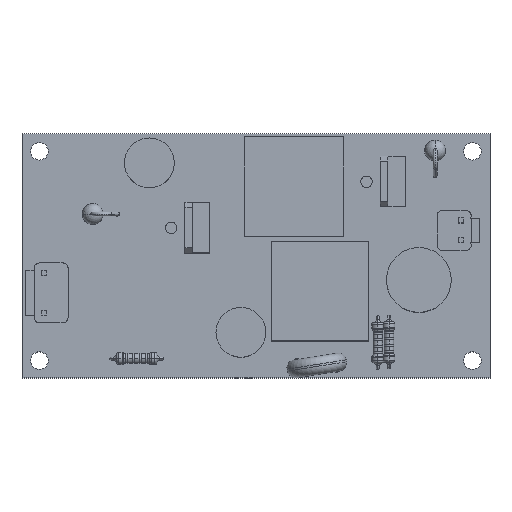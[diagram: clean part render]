
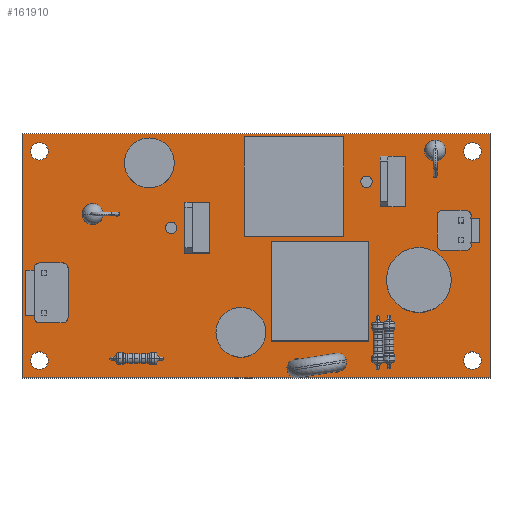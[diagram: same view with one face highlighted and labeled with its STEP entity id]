
A CAD part, top view. The second image highlights one B-rep face of the part: STEP entity #161910.
In plain terms, the highlighted planar face has unit normal (0, 0, 1).
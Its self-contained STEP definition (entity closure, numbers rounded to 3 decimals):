
#160920=CARTESIAN_POINT('',(101.661,200.228,-0.411));
#160930=DIRECTION('',(0.,0.,-1.));
#160940=DIRECTION('',(-1.,0.,0.));
#160950=AXIS2_PLACEMENT_3D('',#160920,#160930,#160940);
#160960=PLANE('',#160950);
#160970=CARTESIAN_POINT('',(144.83,179.7,-0.411));
#160980=DIRECTION('',(-1.,0.,0.));
#160990=VECTOR('',#160980,1.);
#161000=LINE('',#160970,#160990);
#161010=CARTESIAN_POINT('',(144.83,179.7,-0.411));
#161020=VERTEX_POINT('',#161010);
#161030=CARTESIAN_POINT('',(50.85,179.7,-0.411));
#161040=VERTEX_POINT('',#161030);
#161050=EDGE_CURVE('',#161020,#161040,#161000,.T.);
#161060=ORIENTED_EDGE('',*,*,#161050,.F.);
#161070=CARTESIAN_POINT('',(50.85,228.7,-0.411));
#161080=DIRECTION('',(0.,-1.,0.));
#161090=VECTOR('',#161080,1.);
#161100=LINE('',#161070,#161090);
#161110=CARTESIAN_POINT('',(50.85,228.7,-0.411));
#161120=VERTEX_POINT('',#161110);
#161130=EDGE_CURVE('',#161120,#161040,#161100,.T.);
#161140=ORIENTED_EDGE('',*,*,#161130,.T.);
#161150=CARTESIAN_POINT('',(144.83,228.7,-0.411));
#161160=DIRECTION('',(-1.,0.,0.));
#161170=VECTOR('',#161160,1.);
#161180=LINE('',#161150,#161170);
#161190=CARTESIAN_POINT('',(144.83,228.7,-0.411));
#161200=VERTEX_POINT('',#161190);
#161210=EDGE_CURVE('',#161200,#161120,#161180,.T.);
#161220=ORIENTED_EDGE('',*,*,#161210,.T.);
#161230=CARTESIAN_POINT('',(144.83,228.7,-0.411));
#161240=DIRECTION('',(0.,-1.,0.));
#161250=VECTOR('',#161240,1.);
#161260=LINE('',#161230,#161250);
#161270=EDGE_CURVE('',#161200,#161020,#161260,.T.);
#161280=ORIENTED_EDGE('',*,*,#161270,.F.);
#161290=EDGE_LOOP('',(#161280,#161220,#161140,#161060));
#161300=FACE_OUTER_BOUND('',#161290,.T.);
#161310=CARTESIAN_POINT('',(141.3,225.2,-0.411));
#161320=DIRECTION('',(0.,0.,-1.));
#161330=DIRECTION('',(1.,0.,0.));
#161340=AXIS2_PLACEMENT_3D('',#161310,#161320,#161330);
#161350=CIRCLE('',#161340,1.75);
#161360=CARTESIAN_POINT('',(143.05,225.2,-0.411));
#161370=VERTEX_POINT('',#161360);
#161380=CARTESIAN_POINT('',(139.55,225.2,-0.411));
#161390=VERTEX_POINT('',#161380);
#161400=EDGE_CURVE('',#161370,#161390,#161350,.T.);
#161410=ORIENTED_EDGE('',*,*,#161400,.T.);
#161420=EDGE_CURVE('',#161390,#161370,#161350,.T.);
#161430=ORIENTED_EDGE('',*,*,#161420,.T.);
#161440=EDGE_LOOP('',(#161430,#161410));
#161450=FACE_BOUND('',#161440,.T.);
#161460=CARTESIAN_POINT('',(141.3,183.2,-0.411));
#161470=DIRECTION('',(0.,0.,-1.));
#161480=DIRECTION('',(1.,0.,0.));
#161490=AXIS2_PLACEMENT_3D('',#161460,#161470,#161480);
#161500=CIRCLE('',#161490,1.75);
#161510=CARTESIAN_POINT('',(139.55,183.2,-0.411));
#161520=VERTEX_POINT('',#161510);
#161530=CARTESIAN_POINT('',(143.05,183.2,-0.411));
#161540=VERTEX_POINT('',#161530);
#161550=EDGE_CURVE('',#161520,#161540,#161500,.T.);
#161560=ORIENTED_EDGE('',*,*,#161550,.T.);
#161570=EDGE_CURVE('',#161540,#161520,#161500,.T.);
#161580=ORIENTED_EDGE('',*,*,#161570,.T.);
#161590=EDGE_LOOP('',(#161580,#161560));
#161600=FACE_BOUND('',#161590,.T.);
#161610=CARTESIAN_POINT('',(54.35,225.2,-0.411));
#161620=DIRECTION('',(0.,0.,-1.));
#161630=DIRECTION('',(1.,0.,0.));
#161640=AXIS2_PLACEMENT_3D('',#161610,#161620,#161630);
#161650=CIRCLE('',#161640,1.75);
#161660=CARTESIAN_POINT('',(52.6,225.2,-0.411));
#161670=VERTEX_POINT('',#161660);
#161680=CARTESIAN_POINT('',(56.1,225.2,-0.411));
#161690=VERTEX_POINT('',#161680);
#161700=EDGE_CURVE('',#161670,#161690,#161650,.T.);
#161710=ORIENTED_EDGE('',*,*,#161700,.T.);
#161720=EDGE_CURVE('',#161690,#161670,#161650,.T.);
#161730=ORIENTED_EDGE('',*,*,#161720,.T.);
#161740=EDGE_LOOP('',(#161730,#161710));
#161750=FACE_BOUND('',#161740,.T.);
#161760=CARTESIAN_POINT('',(54.35,183.2,-0.411));
#161770=DIRECTION('',(0.,0.,-1.));
#161780=DIRECTION('',(1.,0.,0.));
#161790=AXIS2_PLACEMENT_3D('',#161760,#161770,#161780);
#161800=CIRCLE('',#161790,1.75);
#161810=CARTESIAN_POINT('',(56.1,183.2,-0.411));
#161820=VERTEX_POINT('',#161810);
#161830=CARTESIAN_POINT('',(52.6,183.2,-0.411));
#161840=VERTEX_POINT('',#161830);
#161850=EDGE_CURVE('',#161820,#161840,#161800,.T.);
#161860=ORIENTED_EDGE('',*,*,#161850,.T.);
#161870=EDGE_CURVE('',#161840,#161820,#161800,.T.);
#161880=ORIENTED_EDGE('',*,*,#161870,.T.);
#161890=EDGE_LOOP('',(#161880,#161860));
#161900=FACE_BOUND('',#161890,.T.);
#161910=ADVANCED_FACE('',(#161300,#161450,#161600,#161750,#161900),
#160960,.F.);
